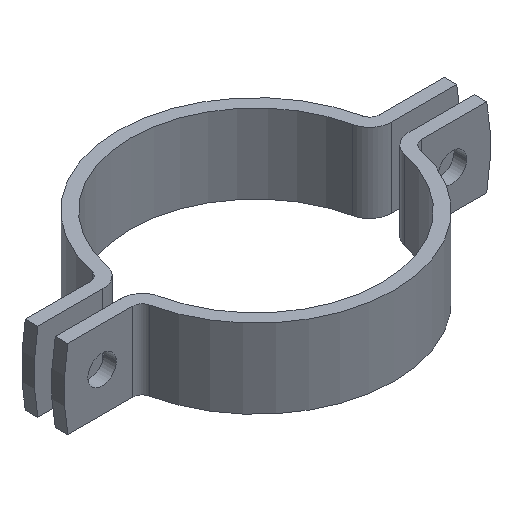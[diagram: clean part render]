
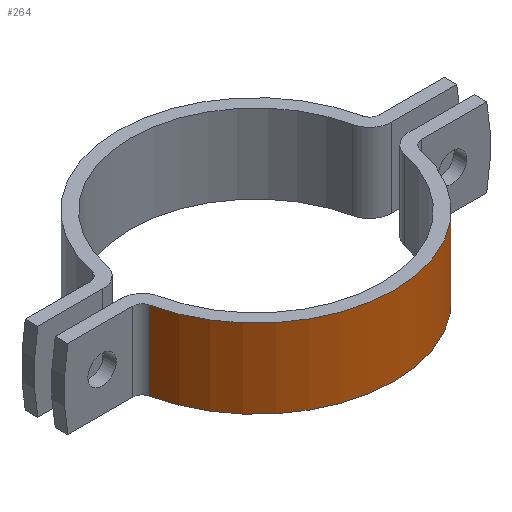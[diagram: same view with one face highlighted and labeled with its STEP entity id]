
A CAD part, isometric view. The second image highlights one B-rep face of the part: STEP entity #264.
In plain terms, the highlighted cylindrical face has radius 87.5 mm (diameter 175 mm), a partial arc.
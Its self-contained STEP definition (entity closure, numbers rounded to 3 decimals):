
#64 = EDGE_CURVE ( 'NONE', #386, #957, #1075, .T. ) ;
#76 = DIRECTION ( 'NONE',  ( 1., 0., 0. ) ) ;
#91 = VECTOR ( 'NONE', #414, 1000. ) ;
#113 = DIRECTION ( 'NONE',  ( 1., 0., 0. ) ) ;
#133 = CARTESIAN_POINT ( 'NONE',  ( -85.576, -18.249, -50. ) ) ;
#174 = EDGE_CURVE ( 'NONE', #312, #386, #959, .T. ) ;
#197 = AXIS2_PLACEMENT_3D ( 'NONE', #438, #821, #537 ) ;
#201 = DIRECTION ( 'NONE',  ( 0., 0., 1. ) ) ;
#264 = ADVANCED_FACE ( 'NONE', ( #822 ), #547, .T. ) ;
#280 = CARTESIAN_POINT ( 'NONE',  ( -85.576, -18.249, -50. ) ) ;
#299 = VERTEX_POINT ( 'NONE', #749 ) ;
#312 = VERTEX_POINT ( 'NONE', #280 ) ;
#319 = AXIS2_PLACEMENT_3D ( 'NONE', #835, #927, #76 ) ;
#365 = CIRCLE ( 'NONE', #197, 87.5 ) ;
#386 = VERTEX_POINT ( 'NONE', #1143 ) ;
#406 = CARTESIAN_POINT ( 'NONE',  ( 85.576, -18.249, 0. ) ) ;
#414 = DIRECTION ( 'NONE',  ( 0., 0., 1. ) ) ;
#438 = CARTESIAN_POINT ( 'NONE',  ( 0., 0., 0. ) ) ;
#462 = AXIS2_PLACEMENT_3D ( 'NONE', #1070, #201, #113 ) ;
#528 = ORIENTED_EDGE ( 'NONE', *, *, #64, .T. ) ;
#537 = DIRECTION ( 'NONE',  ( 1., 0., 0. ) ) ;
#547 = CYLINDRICAL_SURFACE ( 'NONE', #319, 87.5 ) ;
#686 = DIRECTION ( 'NONE',  ( 0., 0., 1. ) ) ;
#702 = ORIENTED_EDGE ( 'NONE', *, *, #891, .F. ) ;
#749 = CARTESIAN_POINT ( 'NONE',  ( -85.576, -18.249, 0. ) ) ;
#766 = EDGE_CURVE ( 'NONE', #299, #957, #365, .T. ) ;
#821 = DIRECTION ( 'NONE',  ( 0., 0., 1. ) ) ;
#822 = FACE_OUTER_BOUND ( 'NONE', #1082, .T. ) ;
#835 = CARTESIAN_POINT ( 'NONE',  ( 0., 0., -50. ) ) ;
#878 = CARTESIAN_POINT ( 'NONE',  ( 85.576, -18.249, -50. ) ) ;
#891 = EDGE_CURVE ( 'NONE', #312, #299, #1093, .T. ) ;
#927 = DIRECTION ( 'NONE',  ( 0., 0., 1. ) ) ;
#954 = ORIENTED_EDGE ( 'NONE', *, *, #174, .T. ) ;
#957 = VERTEX_POINT ( 'NONE', #406 ) ;
#959 = CIRCLE ( 'NONE', #462, 87.5 ) ;
#985 = ORIENTED_EDGE ( 'NONE', *, *, #766, .F. ) ;
#1070 = CARTESIAN_POINT ( 'NONE',  ( 0., 0., -50. ) ) ;
#1075 = LINE ( 'NONE', #878, #1208 ) ;
#1082 = EDGE_LOOP ( 'NONE', ( #985, #702, #954, #528 ) ) ;
#1093 = LINE ( 'NONE', #133, #91 ) ;
#1143 = CARTESIAN_POINT ( 'NONE',  ( 85.576, -18.249, -50. ) ) ;
#1208 = VECTOR ( 'NONE', #686, 1000. ) ;
